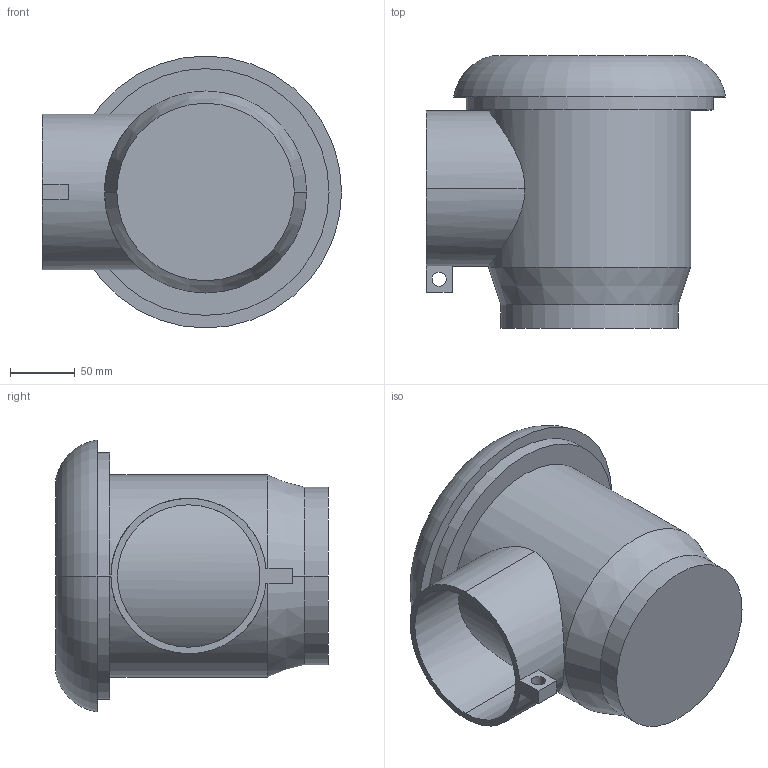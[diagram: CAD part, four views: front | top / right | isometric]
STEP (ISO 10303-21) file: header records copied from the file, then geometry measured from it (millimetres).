
FILE_DESCRIPTION((''),'2;1');
FILE_NAME('50099641','2020-02-03T08:43:11',('gm'),('HUBER SE'),'CREO PARAMETRIC BY PTC INC, 2019224','CREO PARAMETRIC BY PTC INC, 2019224','');
FILE_SCHEMA(('AUTOMOTIVE_DESIGN { 1 0 10303 214 1 1 1 1 }'));
Length unit declared in the file: millimetre
Products named in the file (1): 50099641
Bounding box: 231 x 210.32 x 210 mm (x, y, z)
Volume: 4409356.1 mm3; surface area: 207136 mm2
Topology: 1 solids, 1 shells, 26 faces, 59 edges, 38 vertices
Faces by surface type: cylinder 13, plane 9, cone 2, torus 2
Entity records: 1840 total; most frequent: CARTESIAN_POINT 359, DIRECTION 133, ORIENTED_EDGE 118, COLOUR_RGB 106, PROPERTY_DEFINITION 99, REPRESENTATION 98, PROPERTY_DEFINITION_REPRESENTATION 98, DESCRIPTIVE_REPRESENTATION_ITEM 85
